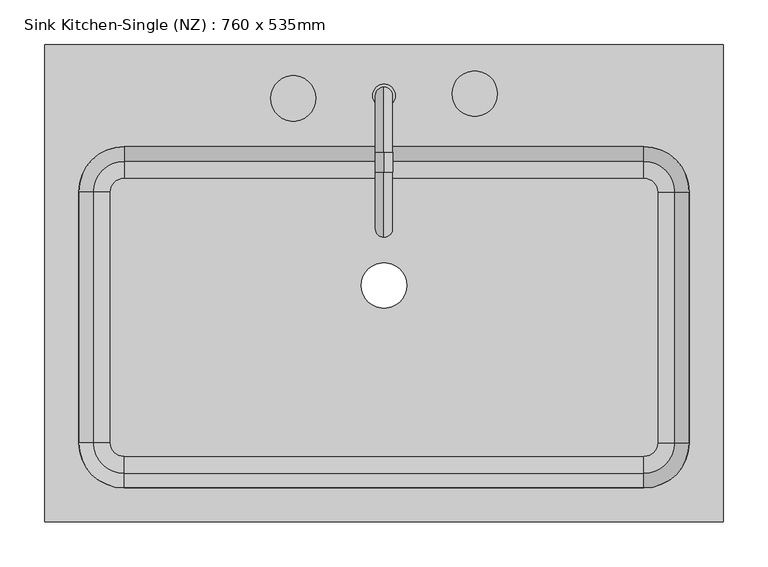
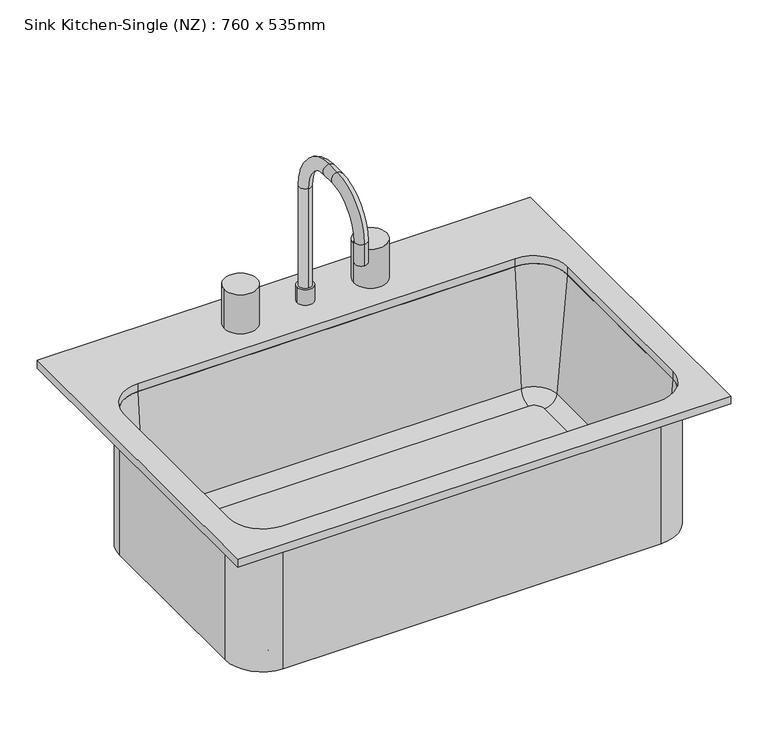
"""IFC4 building model written with IfcOpenShell, lengths in millimetres: flow terminal geometry, Sink Kitchen-Single (NZ) : 760 x 535mm."""

from ifc_helpers import new_model, si_unit, point, frame, frame_2d, origin, place, context, project, spatial, polyline, circle_curve, ellipse_curve, trimmed, segment, composite_curve, outline, extrude, source, transform, mapped, element, save
from ifc_brep_helpers import plane_surface, cylinder_surface, revolved_surface, advanced_brep


def sink_kitchen_single_nz_760_x_535mm_626cda17(model_context):
    return source(origin(), model_context, "Body", "SolidModel", [
        advanced_brep(
        [(363.9392406, 104.7454011, 684.1), (306.7892406, 161.8954011, 684.1), (306.7892406, 161.8954011, 900.0), (363.9392406, 104.7454011, 900.0), (363.9392406, -176.2545989, 684.1), (306.7892406, -233.4045989, 684.1), (-275.4107594, -233.4045989, 684.1), (-332.5607594, -176.2545989, 684.1), (-332.5607594, 104.7454011, 684.1), (-275.4107594, 161.8954011, 684.1), (-9.7107594, 0.0, 684.1), (41.0892406, 0.0, 684.1), (322.0776588, 104.7454011, 693.625), (306.7892406, 120.0338193, 693.625), (-275.4107594, 120.0338193, 693.625), (-290.6991776, 104.7454011, 693.625), (-290.6991776, -176.2545989, 693.625), (-275.4107594, -191.5430171, 693.625), (306.7892406, -191.5430171, 693.625), (322.0776588, -176.2545989, 693.625), (-9.7107594, 0.0, 693.625), (41.0892406, 0.0, 693.625), (341.0551678, 104.7454011, 711.0146831), (306.7892406, 139.0113283, 711.0146831), (357.5892406, 104.7454011, 900.0), (306.7892406, 155.5454011, 900.0), (363.9392406, -176.2545989, 900.0), (341.0551678, -176.2545989, 711.0146831), (357.5892406, -176.2545989, 900.0), (306.7892406, -233.4045989, 900.0), (306.7892406, -210.5205261, 711.0146831), (306.7892406, -227.0545989, 900.0), (-275.4107594, -233.4045989, 900.0), (-275.4107594, -210.5205261, 711.0146831), (-275.4107594, -227.0545989, 900.0), (-332.5607594, -176.2545989, 900.0), (-309.6766866, -176.2545989, 711.0146831), (-326.2107594, -176.2545989, 900.0), (-332.5607594, 104.7454011, 900.0), (-309.6766866, 104.7454011, 711.0146831), (-326.2107594, 104.7454011, 900.0), (-275.4107594, 161.8954011, 900.0), (-275.4107594, 139.0113283, 711.0146831), (-275.4107594, 155.5454011, 900.0)],
        [
            (0, 1, circle_curve(frame((306.7892406, 104.7454011, 684.1), z_axis=(0.0, 0.0, 1.0), x_axis=(0.0, 1.0, 0.0)), 57.15)),
            (1, 2),
            (2, 3, circle_curve(frame((306.7892406, 104.7454011, 900.0), z_axis=(0.0, 0.0, -1.0), x_axis=(0.0, 1.0, 0.0)), 57.15)),
            (3, 0),
            (0, 4),
            (4, 5, circle_curve(frame((306.7892406, -176.2545989, 684.1), z_axis=(0.0, 0.0, -1.0), x_axis=(1.0, 0.0, 0.0)), 57.15)),
            (5, 6),
            (6, 7, circle_curve(frame((-275.4107594, -176.2545989, 684.1), z_axis=(0.0, 0.0, -1.0), x_axis=(0.0, -1.0, 0.0)), 57.15)),
            (7, 8),
            (8, 9, circle_curve(frame((-275.4107594, 104.7454011, 684.1), z_axis=(0.0, 0.0, -1.0), x_axis=(-1.0, 0.0, 0.0)), 57.15)),
            (9, 1),
            (10, 11, circle_curve(frame((15.6892406, 0.0, 684.1), z_axis=(0.0, 0.0, 1.0), x_axis=(1.0, 0.0, 0.0)), 25.4)),
            (11, 10, circle_curve(frame((15.6892406, 0.0, 684.1), z_axis=(0.0, 0.0, 1.0), x_axis=(1.0, 0.0, 0.0)), 25.4)),
            (12, 13, circle_curve(frame((306.7892406, 104.7454011, 693.625), z_axis=(0.0, 0.0, 1.0), x_axis=(0.0, 1.0, 0.0)), 15.2884182)),
            (13, 14),
            (14, 15, circle_curve(frame((-275.4107594, 104.7454011, 693.625), z_axis=(0.0, 0.0, 1.0), x_axis=(-1.0, 0.0, 0.0)), 15.2884182)),
            (15, 16),
            (16, 17, circle_curve(frame((-275.4107594, -176.2545989, 693.625), z_axis=(0.0, 0.0, 1.0), x_axis=(0.0, -1.0, 0.0)), 15.2884182)),
            (17, 18),
            (18, 19, circle_curve(frame((306.7892406, -176.2545989, 693.625), z_axis=(0.0, 0.0, 1.0), x_axis=(1.0, 0.0, 0.0)), 15.2884182)),
            (19, 12),
            (20, 21, circle_curve(frame((15.6892406, 0.0, 693.625), z_axis=(0.0, 0.0, -1.0), x_axis=(1.0, 0.0, 0.0)), 25.4)),
            (21, 20, circle_curve(frame((15.6892406, 0.0, 693.625), z_axis=(0.0, 0.0, -1.0), x_axis=(1.0, 0.0, 0.0)), 25.4)),
            (12, 22, circle_curve(frame((322.0776588, 104.7454011, 712.675), z_axis=(0.0, -1.0, 0.0), x_axis=(1.0, 0.0, 0.0)), 19.05)),
            (22, 23, circle_curve(frame((306.7892406, 104.7454011, 711.0146831), z_axis=(0.0, 0.0, 1.0), x_axis=(0.0, 1.0, 0.0)), 34.2659272)),
            (23, 13, circle_curve(frame((306.7892406, 120.0338193, 712.675), z_axis=(-1.0, 0.0, 0.0), x_axis=(0.0, 1.0, 0.0)), 19.05)),
            (22, 24),
            (24, 25, circle_curve(frame((306.7892406, 104.7454011, 900.0), z_axis=(0.0, 0.0, 1.0), x_axis=(0.0, 1.0, 0.0)), 50.8)),
            (25, 23),
            (2, 25),
            (24, 3),
            (3, 26),
            (26, 4),
            (19, 27, circle_curve(frame((322.0776588, -176.2545989, 712.675), z_axis=(0.0, -1.0, 0.0), x_axis=(1.0, 0.0, 0.0)), 19.05)),
            (27, 22),
            (27, 28),
            (28, 24),
            (28, 26),
            (26, 29, circle_curve(frame((306.7892406, -176.2545989, 900.0), z_axis=(0.0, 0.0, -1.0), x_axis=(1.0, 0.0, 0.0)), 57.15)),
            (29, 5),
            (18, 30, circle_curve(frame((306.7892406, -191.5430171, 712.675), z_axis=(-1.0, 0.0, 0.0), x_axis=(0.0, -1.0, 0.0)), 19.05)),
            (30, 27, circle_curve(frame((306.7892406, -176.2545989, 711.0146831), z_axis=(0.0, 0.0, 1.0), x_axis=(1.0, 0.0, 0.0)), 34.2659272)),
            (30, 31),
            (31, 28, circle_curve(frame((306.7892406, -176.2545989, 900.0), z_axis=(0.0, 0.0, 1.0), x_axis=(1.0, 0.0, 0.0)), 50.8)),
            (31, 29),
            (29, 32),
            (32, 6),
            (17, 33, circle_curve(frame((-275.4107594, -191.5430171, 712.675), z_axis=(-1.0, 0.0, 0.0), x_axis=(0.0, -1.0, 0.0)), 19.05)),
            (33, 30),
            (33, 34),
            (34, 31),
            (34, 32),
            (32, 35, circle_curve(frame((-275.4107594, -176.2545989, 900.0), z_axis=(0.0, 0.0, -1.0), x_axis=(0.0, -1.0, 0.0)), 57.15)),
            (35, 7),
            (16, 36, circle_curve(frame((-290.6991776, -176.2545989, 712.675), z_axis=(0.0, 1.0, 0.0), x_axis=(-1.0, 0.0, 0.0)), 19.05)),
            (36, 33, circle_curve(frame((-275.4107594, -176.2545989, 711.0146831), z_axis=(0.0, 0.0, 1.0), x_axis=(0.0, -1.0, 0.0)), 34.2659272)),
            (36, 37),
            (37, 34, circle_curve(frame((-275.4107594, -176.2545989, 900.0), z_axis=(0.0, 0.0, 1.0), x_axis=(0.0, -1.0, 0.0)), 50.8)),
            (37, 35),
            (35, 38),
            (38, 8),
            (15, 39, circle_curve(frame((-290.6991776, 104.7454011, 712.675), z_axis=(0.0, 1.0, 0.0), x_axis=(-1.0, 0.0, 0.0)), 19.05)),
            (39, 36),
            (39, 40),
            (40, 37),
            (40, 38),
            (38, 41, circle_curve(frame((-275.4107594, 104.7454011, 900.0), z_axis=(0.0, 0.0, -1.0), x_axis=(-1.0, 0.0, 0.0)), 57.15)),
            (41, 9),
            (14, 42, circle_curve(frame((-275.4107594, 120.0338193, 712.675), z_axis=(1.0, 0.0, 0.0), x_axis=(0.0, 1.0, 0.0)), 19.05)),
            (42, 39, circle_curve(frame((-275.4107594, 104.7454011, 711.0146831), z_axis=(0.0, 0.0, 1.0), x_axis=(-1.0, 0.0, 0.0)), 34.2659272)),
            (42, 43),
            (43, 40, circle_curve(frame((-275.4107594, 104.7454011, 900.0), z_axis=(0.0, 0.0, 1.0), x_axis=(-1.0, 0.0, 0.0)), 50.8)),
            (43, 41),
            (41, 2),
            (23, 42),
            (25, 43),
            (20, 10),
            (11, 21),
        ],
        [
            cylinder_surface(frame((306.7892406, 104.7454011, 0.0), z_axis=(0.0, 0.0, -1.0), x_axis=(0.0, 1.0, 0.0)), 57.15),
            plane_surface(frame((306.7892406, 104.7454011, 684.1), z_axis=(0.0, 0.0, -1.0), x_axis=(0.0, 1.0, 0.0))),
            plane_surface(frame((306.7892406, 104.7454011, 693.625), z_axis=(0.0, 0.0, 1.0), x_axis=(0.0, 1.0, 0.0))),
            revolved_surface(trimmed(ellipse_curve(frame((306.7892406, 120.0338193, 712.675), z_axis=(1.0, 0.0, 0.0), x_axis=(0.0, 1.0, 0.0)), 19.05, 19.05), [point((306.7892406, 120.0338193, 693.625))], [point((306.7892406, 139.0113283, 711.0146831))], True, "CARTESIAN"), (306.7892406, 104.7454011, 0.0), (0.0, 0.0, -1.0)),
            revolved_surface(polyline([(306.7892406, 139.0113283, 711.0146831), (306.7892406, 155.5454011, 900.0)]), (306.7892406, 104.7454011, 0.0), (0.0, 0.0, -1.0)),
            plane_surface(frame((306.7892406, 104.7454011, 900.0), z_axis=(0.0, 0.0, 1.0), x_axis=(0.0, 1.0, 0.0))),
            plane_surface(frame((363.9392406, 104.7454011, 900.0), z_axis=(1.0, 0.0, 0.0), x_axis=(0.0, -1.0, 0.0))),
            revolved_surface(polyline([(341.1276588, -176.25459890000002, 712.675), (341.1276588, 104.7454011, 712.675)]), (322.0776588, 104.7454011, 712.675), (0.0, -1.0, 0.0)),
            plane_surface(frame((341.0551678, 104.7454011, 711.0146831), z_axis=(-0.9961946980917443, 0.0, 0.08715574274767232), x_axis=(0.0, -1.0, 0.0))),
            plane_surface(frame((357.5892406, 104.7454011, 900.0), z_axis=(0.0, 0.0, 1.0), x_axis=(0.0, -1.0, 0.0))),
            cylinder_surface(frame((306.7892406, -176.2545989, 0.0), z_axis=(0.0, 0.0, -1.0), x_axis=(1.0, 0.0, 0.0)), 57.15),
            revolved_surface(trimmed(ellipse_curve(frame((322.0776588, -176.2545989, 712.675), z_axis=(0.0, -1.0, 0.0), x_axis=(1.0, 0.0, 0.0)), 19.05, 19.05), [point((322.0776588, -176.2545989, 693.625))], [point((341.0551678, -176.2545989, 711.0146831))], True, "CARTESIAN"), (306.7892406, -176.2545989, 0.0), (0.0, 0.0, -1.0)),
            revolved_surface(polyline([(341.0551678, -176.2545989, 711.0146831), (357.5892406, -176.2545989, 900.0)]), (306.7892406, -176.2545989, 0.0), (0.0, 0.0, -1.0)),
            plane_surface(frame((306.7892406, -176.2545989, 900.0), z_axis=(0.0, 0.0, 1.0), x_axis=(1.0, 0.0, 0.0))),
            plane_surface(frame((306.7892406, -233.4045989, 900.0), z_axis=(0.0, -1.0, 0.0), x_axis=(-1.0, 0.0, 0.0))),
            revolved_surface(polyline([(-275.4107594, -210.5930171, 712.675), (306.7892406, -210.5930171, 712.675)]), (306.7892406, -191.5430171, 712.675), (-1.0, 0.0, 0.0)),
            plane_surface(frame((306.7892406, -210.5205261, 711.0146831), z_axis=(0.0, 0.9961946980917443, 0.08715574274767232), x_axis=(-1.0, 0.0, 0.0))),
            plane_surface(frame((306.7892406, -227.0545989, 900.0), z_axis=(0.0, 0.0, 1.0), x_axis=(-1.0, 0.0, 0.0))),
            cylinder_surface(frame((-275.4107594, -176.2545989, 0.0), z_axis=(0.0, 0.0, -1.0), x_axis=(0.0, -1.0, 0.0)), 57.15),
            revolved_surface(trimmed(ellipse_curve(frame((-275.4107594, -191.5430171, 712.675), z_axis=(-1.0, 0.0, 0.0), x_axis=(0.0, -1.0, 0.0)), 19.05, 19.05), [point((-275.4107594, -191.5430171, 693.625))], [point((-275.4107594, -210.5205261, 711.0146831))], True, "CARTESIAN"), (-275.4107594, -176.2545989, 0.0), (0.0, 0.0, -1.0)),
            revolved_surface(polyline([(-275.4107594, -210.5205261, 711.0146831), (-275.4107594, -227.0545989, 900.0)]), (-275.4107594, -176.2545989, 0.0), (0.0, 0.0, -1.0)),
            plane_surface(frame((-275.4107594, -176.2545989, 900.0), z_axis=(0.0, 0.0, 1.0), x_axis=(0.0, -1.0, 0.0))),
            plane_surface(frame((-332.5607594, -176.2545989, 900.0), z_axis=(-1.0, 0.0, 0.0), x_axis=(0.0, 1.0, 0.0))),
            revolved_surface(polyline([(-309.7491776, 104.74540110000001, 712.675), (-309.7491776, -176.2545989, 712.675)]), (-290.6991776, -176.2545989, 712.675), (0.0, 1.0, 0.0)),
            plane_surface(frame((-309.6766866, -176.2545989, 711.0146831), z_axis=(0.9961946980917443, 0.0, 0.08715574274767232), x_axis=(0.0, 1.0, 0.0))),
            plane_surface(frame((-326.2107594, -176.2545989, 900.0), z_axis=(0.0, 0.0, 1.0), x_axis=(0.0, 1.0, 0.0))),
            cylinder_surface(frame((-275.4107594, 104.7454011, 0.0), z_axis=(0.0, 0.0, -1.0), x_axis=(-1.0, 0.0, 0.0)), 57.15),
            revolved_surface(trimmed(ellipse_curve(frame((-290.6991776, 104.7454011, 712.675), z_axis=(0.0, 1.0, 0.0), x_axis=(-1.0, 0.0, 0.0)), 19.05, 19.05), [point((-290.6991776, 104.7454011, 693.625))], [point((-309.6766866, 104.7454011, 711.0146831))], True, "CARTESIAN"), (-275.4107594, 104.7454011, 0.0), (0.0, 0.0, -1.0)),
            revolved_surface(polyline([(-309.6766866, 104.7454011, 711.0146831), (-326.2107594, 104.7454011, 900.0)]), (-275.4107594, 104.7454011, 0.0), (0.0, 0.0, -1.0)),
            plane_surface(frame((-275.4107594, 104.7454011, 900.0), z_axis=(0.0, 0.0, 1.0), x_axis=(-1.0, 0.0, 0.0))),
            plane_surface(frame((-275.4107594, 161.8954011, 900.0), z_axis=(0.0, 1.0, 0.0), x_axis=(1.0, 0.0, 0.0))),
            revolved_surface(polyline([(306.7892406, 139.08381930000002, 712.675), (-275.4107594, 139.08381930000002, 712.675)]), (-275.4107594, 120.0338193, 712.675), (1.0, 0.0, 0.0)),
            plane_surface(frame((-275.4107594, 139.0113283, 711.0146831), z_axis=(0.0, -0.9961946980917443, 0.08715574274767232), x_axis=(1.0, 0.0, 0.0))),
            plane_surface(frame((-275.4107594, 155.5454011, 900.0), z_axis=(0.0, 0.0, 1.0), x_axis=(1.0, 0.0, 0.0))),
            revolved_surface(polyline([(41.0892406, 0.0, 684.1), (41.0892406, 0.0, 693.625)]), (15.6892406, 0.0, 0.0), (0.0, 0.0, -1.0)),
        ],
        [
            (0, [[1, 2, 3, 4]]),
            (1, [[-1, 5, 6, 7, 8, 9, 10, 11], [12, 13]]),
            (2, [[14, 15, 16, 17, 18, 19, 20, 21], [22, 23]]),
            (3, [[-14, 24, 25, 26]]),
            (4, [[-25, 27, 28, 29]]),
            (5, [[-3, 30, -28, 31]]),
            (6, [[-4, 32, 33, -5]]),
            (7, [[-24, -21, 34, 35]]),
            (8, [[-27, -35, 36, 37]]),
            (9, [[-31, -37, 38, -32]]),
            (10, [[-33, 39, 40, -6]]),
            (11, [[-34, -20, 41, 42]]),
            (12, [[-36, -42, 43, 44]]),
            (13, [[-38, -44, 45, -39]]),
            (14, [[-40, 46, 47, -7]]),
            (15, [[-41, -19, 48, 49]]),
            (16, [[-43, -49, 50, 51]]),
            (17, [[-45, -51, 52, -46]]),
            (18, [[-47, 53, 54, -8]]),
            (19, [[-48, -18, 55, 56]]),
            (20, [[-50, -56, 57, 58]]),
            (21, [[-52, -58, 59, -53]]),
            (22, [[-54, 60, 61, -9]]),
            (23, [[-55, -17, 62, 63]]),
            (24, [[-57, -63, 64, 65]]),
            (25, [[-59, -65, 66, -60]]),
            (26, [[-61, 67, 68, -10]]),
            (27, [[-62, -16, 69, 70]]),
            (28, [[-64, -70, 71, 72]]),
            (29, [[-66, -72, 73, -67]]),
            (30, [[-2, -11, -68, 74]]),
            (31, [[-26, 75, -69, -15]]),
            (32, [[-29, 76, -71, -75]]),
            (33, [[-30, -74, -73, -76]]),
            (34, [[-22, 77, -13, 78]]),
            (34, [[-23, -78, -12, -77]]),
        ],
    ),
        advanced_brep(
        [(2.9892406, 212.6954011, 938.1), (28.3892406, 212.6954011, 938.1), (15.6892406, 222.2204011, 938.1), (15.6892406, 203.1704011, 938.1), (2.9892406, 212.6954011, 912.7), (28.3892406, 212.6954011, 912.7), (15.6892406, 222.2204011, 1100.025), (15.6892406, 203.1704011, 1100.025), (15.6892406, 149.1954011, 1173.05), (15.6892406, 149.1954011, 1154.0), (15.6892406, 126.9704011, 1173.05), (15.6892406, 126.9704011, 1154.0), (15.6892406, 53.9454011, 1100.025), (15.6892406, 72.9954011, 1100.025), (15.6892406, 53.9454011, 1065.1), (15.6892406, 72.9954011, 1065.1)],
        [
            (0, 1, circle_curve(frame((15.6892406, 212.6954011, 938.1), z_axis=(0.0, 0.0, 1.0), x_axis=(1.0, 0.0, 0.0)), 12.7)),
            (1, 0, circle_curve(frame((15.6892406, 212.6954011, 938.1), z_axis=(0.0, 0.0, 1.0), x_axis=(1.0, 0.0, 0.0)), 12.7)),
            (2, 3, circle_curve(frame((15.6892406, 212.6954011, 938.1), z_axis=(0.0, 0.0, -1.0), x_axis=(0.0, -1.0, 0.0)), 9.525)),
            (3, 2, circle_curve(frame((15.6892406, 212.6954011, 938.1), z_axis=(0.0, 0.0, -1.0), x_axis=(0.0, -1.0, 0.0)), 9.525)),
            (4, 5, circle_curve(frame((15.6892406, 212.6954011, 912.7), z_axis=(0.0, 0.0, -1.0), x_axis=(1.0, 0.0, 0.0)), 12.7)),
            (5, 4, circle_curve(frame((15.6892406, 212.6954011, 912.7), z_axis=(0.0, 0.0, -1.0), x_axis=(1.0, 0.0, 0.0)), 12.7)),
            (0, 4),
            (5, 1),
            (6, 7, circle_curve(frame((15.6892406, 212.6954011, 1100.025), z_axis=(0.0, 0.0, -1.0), x_axis=(0.0, -1.0, 0.0)), 9.525)),
            (7, 3),
            (2, 6),
            (7, 6, circle_curve(frame((15.6892406, 212.6954011, 1100.025), z_axis=(0.0, 0.0, -1.0), x_axis=(0.0, -1.0, 0.0)), 9.525)),
            (6, 8, circle_curve(frame((15.6892406, 149.1954011, 1100.025), z_axis=(1.0, 0.0, 0.0), x_axis=(0.0, 1.0, 0.0)), 73.025)),
            (8, 9, circle_curve(frame((15.6892406, 149.1954011, 1163.525), z_axis=(0.0, 1.0, 0.0), x_axis=(0.0, 0.0, -1.0)), 9.525)),
            (9, 7, circle_curve(frame((15.6892406, 149.1954011, 1100.025), z_axis=(-1.0, 0.0, 0.0), x_axis=(0.0, 1.0, 0.0)), 53.975)),
            (9, 8, circle_curve(frame((15.6892406, 149.1954011, 1163.525), z_axis=(0.0, 1.0, 0.0), x_axis=(0.0, 0.0, -1.0)), 9.525)),
            (8, 10),
            (10, 11, circle_curve(frame((15.6892406, 126.9704011, 1163.525), z_axis=(0.0, 1.0, 0.0), x_axis=(0.0, 0.0, -1.0)), 9.525)),
            (11, 9),
            (11, 10, circle_curve(frame((15.6892406, 126.9704011, 1163.525), z_axis=(0.0, 1.0, 0.0), x_axis=(0.0, 0.0, -1.0)), 9.525)),
            (10, 12, circle_curve(frame((15.6892406, 126.9704011, 1100.025), z_axis=(1.0, 0.0, 0.0), x_axis=(0.0, 0.0, 1.0)), 73.025)),
            (12, 13, circle_curve(frame((15.6892406, 63.4704011, 1100.025), z_axis=(0.0, 0.0, 1.0), x_axis=(0.0, 1.0, 0.0)), 9.525)),
            (13, 11, circle_curve(frame((15.6892406, 126.9704011, 1100.025), z_axis=(-1.0, 0.0, 0.0), x_axis=(0.0, 0.0, 1.0)), 53.975)),
            (13, 12, circle_curve(frame((15.6892406, 63.4704011, 1100.025), z_axis=(0.0, 0.0, 1.0), x_axis=(0.0, 1.0, 0.0)), 9.525)),
            (14, 15, circle_curve(frame((15.6892406, 63.4704011, 1065.1), z_axis=(0.0, 0.0, -1.0), x_axis=(0.0, 1.0, 0.0)), 9.525)),
            (15, 14, circle_curve(frame((15.6892406, 63.4704011, 1065.1), z_axis=(0.0, 0.0, -1.0), x_axis=(0.0, 1.0, 0.0)), 9.525)),
            (12, 14),
            (15, 13),
        ],
        [
            plane_surface(frame((28.3892406, 212.6954011, 938.1), z_axis=(0.0, 0.0, 1.0), x_axis=(0.0, 1.0, 0.0))),
            plane_surface(frame((28.3892406, 212.6954011, 912.7), z_axis=(0.0, 0.0, -1.0), x_axis=(0.0, -1.0, 0.0))),
            cylinder_surface(frame((15.6892406, 212.6954011, 912.7), z_axis=(0.0, 0.0, 1.0), x_axis=(1.0, 0.0, 0.0)), 12.7),
            cylinder_surface(frame((15.6892406, 212.6954011, 912.7), z_axis=(0.0, 0.0, -1.0), x_axis=(0.0, -1.0, 0.0)), 9.525),
            revolved_surface(trimmed(ellipse_curve(frame((15.6892406, 212.6954011, 1100.025), z_axis=(0.0, 0.0, -1.0), x_axis=(0.0, -1.0, 0.0)), 9.525, 9.525), [point((15.6892406, 222.2204011, 1100.025))], [point((15.6892406, 203.1704011, 1100.025))], True, "CARTESIAN"), (15.6892406, 149.1954011, 1100.025), (1.0, 0.0, 0.0)),
            revolved_surface(trimmed(ellipse_curve(frame((15.6892406, 212.6954011, 1100.025), z_axis=(0.0, 0.0, -1.0), x_axis=(0.0, -1.0, 0.0)), 9.525, 9.525), [point((15.6892406, 203.1704011, 1100.025))], [point((15.6892406, 222.2204011, 1100.025))], True, "CARTESIAN"), (15.6892406, 149.1954011, 1100.025), (1.0, 0.0, 0.0)),
            cylinder_surface(frame((15.6892406, 149.1954011, 1163.525), z_axis=(0.0, 1.0, 0.0), x_axis=(0.0, 0.0, -1.0)), 9.525),
            revolved_surface(trimmed(ellipse_curve(frame((15.6892406, 126.9704011, 1163.525), z_axis=(0.0, 1.0, 0.0), x_axis=(0.0, 0.0, -1.0)), 9.525, 9.525), [point((15.6892406, 126.9704011, 1173.05))], [point((15.6892406, 126.9704011, 1154.0))], True, "CARTESIAN"), (15.6892406, 126.9704011, 1100.025), (1.0, 0.0, 0.0)),
            revolved_surface(trimmed(ellipse_curve(frame((15.6892406, 126.9704011, 1163.525), z_axis=(0.0, 1.0, 0.0), x_axis=(0.0, 0.0, -1.0)), 9.525, 9.525), [point((15.6892406, 126.9704011, 1154.0))], [point((15.6892406, 126.9704011, 1173.05))], True, "CARTESIAN"), (15.6892406, 126.9704011, 1100.025), (1.0, 0.0, 0.0)),
            plane_surface(frame((15.6892406, 53.9454011, 1065.1), z_axis=(0.0, 0.0, -1.0), x_axis=(-1.0, 0.0, 0.0))),
            cylinder_surface(frame((15.6892406, 63.4704011, 1100.025), z_axis=(0.0, 0.0, 1.0), x_axis=(0.0, 1.0, 0.0)), 9.525),
        ],
        [
            (0, [[1, 2], [3, 4]]),
            (1, [[5, 6]]),
            (2, [[-1, 7, -6, 8]]),
            (2, [[-2, -8, -5, -7]]),
            (3, [[9, 10, -3, 11]]),
            (3, [[12, -11, -4, -10]]),
            (4, [[-9, 13, 14, 15]]),
            (5, [[-12, -15, 16, -13]]),
            (6, [[-14, 17, 18, 19]]),
            (6, [[-16, -19, 20, -17]]),
            (7, [[-18, 21, 22, 23]]),
            (8, [[-20, -23, 24, -21]]),
            (9, [[25, 26]]),
            (10, [[-22, 27, -26, 28]]),
            (10, [[-24, -28, -25, -27]]),
        ],
    ),
        extrude(outline(composite_curve([segment(trimmed(circle_curve(frame_2d((-85.9107594, 209.6166076)), 25.4), [point((-111.3107594, 209.6166076))], [point((-60.5107594, 209.6166076))], False, "CARTESIAN"), True, "CONTINUOUS"), segment(trimmed(circle_curve(frame_2d((-85.9107594, 209.6166076)), 25.4), [point((-60.5107594, 209.6166076))], [point((-111.3107594, 209.6166076))], False, "CARTESIAN"), True, "CONTINUOUS")], self_intersect=False)), frame((0.0, 0.0, 912.7), z_axis=(0.0, 0.0, 1.0), x_axis=(1.0, 0.0, 0.0)), (0.0, 0.0, 1.0), 63.5),
        extrude(outline(composite_curve([segment(trimmed(circle_curve(frame_2d((117.2892406, 214.8133323)), 25.4), [point((91.8892406, 214.8133323))], [point((142.6892406, 214.8133323))], False, "CARTESIAN"), True, "CONTINUOUS"), segment(trimmed(circle_curve(frame_2d((117.2892406, 214.8133323)), 25.4), [point((142.6892406, 214.8133323))], [point((91.8892406, 214.8133323))], False, "CARTESIAN"), True, "CONTINUOUS")], self_intersect=False)), frame((0.0, 0.0, 912.7), z_axis=(0.0, 0.0, 1.0), x_axis=(1.0, 0.0, 0.0)), (0.0, 0.0, 1.0), 63.5),
        extrude(outline(polyline([(395.6892406, 269.8454011), (395.6892406, -265.1545989), (-364.3107594, -265.1545989), (-364.3107594, 269.8454011), (395.6892406, 269.8454011)]), holes=[composite_curve([segment(polyline([(306.7892406, 155.5454011), (-275.4107594, 155.5454011)]), True, "CONTINUOUS"), segment(trimmed(circle_curve(frame_2d((-275.4107594, 104.7454011)), 50.8), [point((-275.4107594, 155.5454011))], [point((-326.2107594, 104.7454011))], True, "CARTESIAN"), True, "CONTINUOUS"), segment(polyline([(-326.2107594, 104.7454011), (-326.2107594, -176.2545989)]), True, "CONTINUOUS"), segment(trimmed(circle_curve(frame_2d((-275.4107594, -176.2545989)), 50.8), [point((-326.2107594, -176.2545989))], [point((-275.4107594, -227.0545989))], True, "CARTESIAN"), True, "CONTINUOUS"), segment(polyline([(-275.4107594, -227.0545989), (306.7892406, -227.0545989)]), True, "CONTINUOUS"), segment(trimmed(circle_curve(frame_2d((306.7892406, -176.2545989)), 50.8), [point((306.7892406, -227.0545989))], [point((357.5892406, -176.2545989))], True, "CARTESIAN"), True, "CONTINUOUS"), segment(polyline([(357.5892406, -176.2545989), (357.5892406, 104.7454011)]), True, "CONTINUOUS"), segment(trimmed(circle_curve(frame_2d((306.7892406, 104.7454011)), 50.8), [point((357.5892406, 104.7454011))], [point((306.7892406, 155.5454011))], True, "CARTESIAN"), True, "CONTINUOUS")], self_intersect=False)]), frame((0.0, 0.0, 900.0), z_axis=(0.0, 0.0, 1.0), x_axis=(1.0, 0.0, 0.0)), (0.0, 0.0, 1.0), 12.7),
    ])


if __name__ == "__main__":
    model = new_model("IFC4")
    model_context = context("Model", 3, world=origin())
    ifc_project = project(units=[si_unit("LENGTHUNIT", "METRE", prefix="MILLI")], contexts=[model_context])
    site = spatial("IfcSite", under=ifc_project)
    building = spatial("IfcBuilding", under=site)
    placement = place(None, origin())
    sink_kitchen_single_nz_760_x_535mm_shape = sink_kitchen_single_nz_760_x_535mm_626cda17(model_context)
    element("IfcFlowTerminal", 1, ObjectType="Sink Kitchen-Single (NZ) : 760 x 535mm", at=placement, inside=building, context=model_context, shape_type="MappedRepresentation", body=[
        mapped(sink_kitchen_single_nz_760_x_535mm_shape, transform((0.0, 0.0, 0.0), x_axis=(1.0, 0.0, 0.0), y_axis=(0.0, 1.0, 0.0), z_axis=(0.0, 0.0, 1.0))),
    ])
    save(model, "model.ifc")
